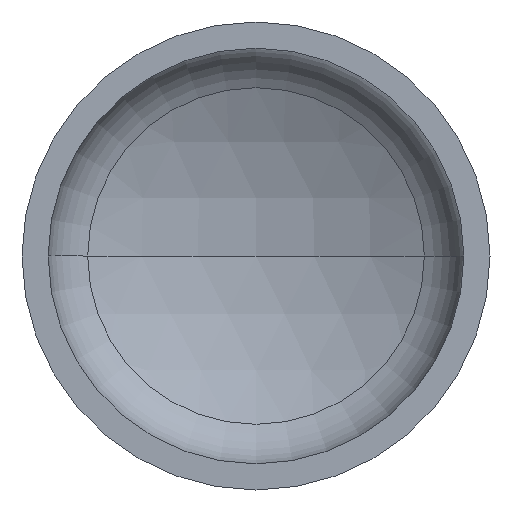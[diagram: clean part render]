
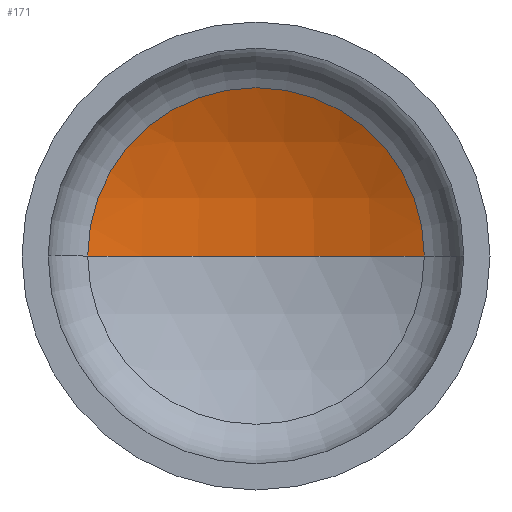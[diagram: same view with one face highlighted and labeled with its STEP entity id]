
A CAD part, front view. The second image highlights one B-rep face of the part: STEP entity #171.
In plain terms, the highlighted spherical face has radius 1200 mm.
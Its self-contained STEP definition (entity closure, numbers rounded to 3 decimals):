
#12 = ORIENTED_EDGE ( 'NONE', *, *, #80, .T. ) ;
#17 = EDGE_LOOP ( 'NONE', ( #26, #126, #12 ) ) ;
#19 = DIRECTION ( 'NONE',  ( -1., 0., 0. ) ) ;
#21 = AXIS2_PLACEMENT_3D ( 'NONE', #229, #200, #280 ) ;
#26 = ORIENTED_EDGE ( 'NONE', *, *, #157, .F. ) ;
#39 = AXIS2_PLACEMENT_3D ( 'NONE', #207, #330, #19 ) ;
#41 = AXIS2_PLACEMENT_3D ( 'NONE', #219, #230, #227 ) ;
#42 = AXIS2_PLACEMENT_3D ( 'NONE', #234, #232, #233 ) ;
#48 = VERTEX_POINT ( 'NONE', #299 ) ;
#80 = EDGE_CURVE ( 'NONE', #117, #147, #168, .T. ) ;
#117 = VERTEX_POINT ( 'NONE', #202 ) ;
#120 = EDGE_CURVE ( 'NONE', #48, #117, #292, .T. ) ;
#126 = ORIENTED_EDGE ( 'NONE', *, *, #120, .T. ) ;
#147 = VERTEX_POINT ( 'NONE', #282 ) ;
#157 = EDGE_CURVE ( 'NONE', #48, #147, #231, .T. ) ;
#168 = CIRCLE ( 'NONE', #42, 539.381 ) ;
#171 = ADVANCED_FACE ( 'NONE', ( #354 ), #285, .F. ) ;
#200 = DIRECTION ( 'NONE',  ( 0., 0., -1. ) ) ;
#202 = CARTESIAN_POINT ( 'NONE',  ( 539.381, 305.456, 0. ) ) ;
#207 = CARTESIAN_POINT ( 'NONE',  ( 0., -766.489, 0. ) ) ;
#219 = CARTESIAN_POINT ( 'NONE',  ( 0., -766.489, 0. ) ) ;
#227 = DIRECTION ( 'NONE',  ( 1., 0., 0. ) ) ;
#229 = CARTESIAN_POINT ( 'NONE',  ( 0., -766.489, 0. ) ) ;
#230 = DIRECTION ( 'NONE',  ( 0., 0., 1. ) ) ;
#231 = CIRCLE ( 'NONE', #41, 1200. ) ;
#232 = DIRECTION ( 'NONE',  ( 0., -1., 0. ) ) ;
#233 = DIRECTION ( 'NONE',  ( 1., 0., 0. ) ) ;
#234 = CARTESIAN_POINT ( 'NONE',  ( 0., 305.456, 0. ) ) ;
#280 = DIRECTION ( 'NONE',  ( -1., 0., 0. ) ) ;
#282 = CARTESIAN_POINT ( 'NONE',  ( -539.381, 305.456, 0. ) ) ;
#285 = SPHERICAL_SURFACE ( 'NONE', #21, 1200. ) ;
#292 = CIRCLE ( 'NONE', #39, 1200. ) ;
#299 = CARTESIAN_POINT ( 'NONE',  ( 0., 433.511, 0. ) ) ;
#330 = DIRECTION ( 'NONE',  ( 0., 0., -1. ) ) ;
#354 = FACE_OUTER_BOUND ( 'NONE', #17, .T. ) ;
